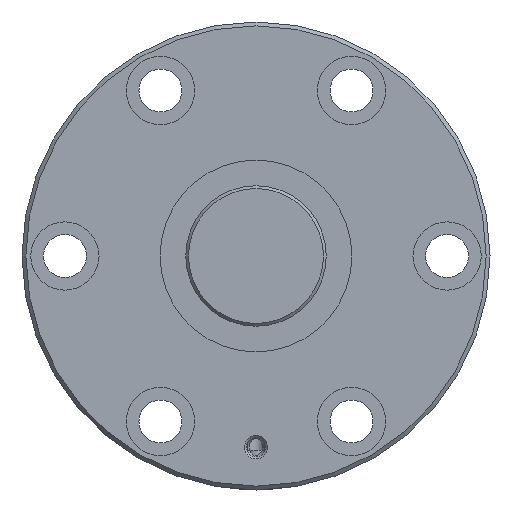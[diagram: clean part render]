
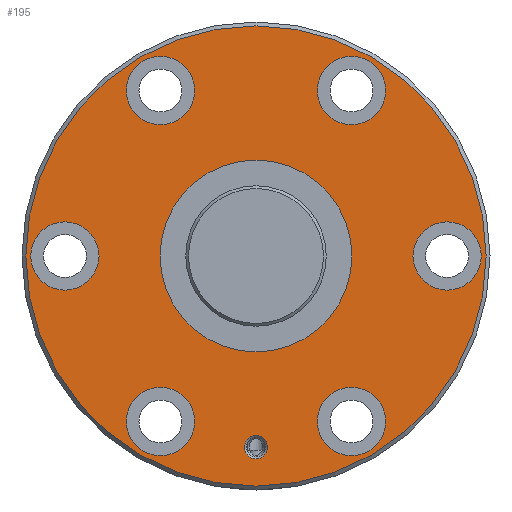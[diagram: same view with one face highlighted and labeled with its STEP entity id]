
A CAD part, left-side view. The second image highlights one B-rep face of the part: STEP entity #195.
In plain terms, the highlighted planar face has unit normal (-1, 0, 0).
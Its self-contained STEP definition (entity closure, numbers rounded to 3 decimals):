
#195 = ADVANCED_FACE( '', ( #329, #330, #331, #332, #333, #334, #335, #336, #337 ), #338, .T. );
#329 = FACE_BOUND( '', #567, .T. );
#330 = FACE_BOUND( '', #568, .T. );
#331 = FACE_BOUND( '', #569, .T. );
#332 = FACE_BOUND( '', #570, .T. );
#333 = FACE_BOUND( '', #571, .T. );
#334 = FACE_BOUND( '', #572, .T. );
#335 = FACE_BOUND( '', #573, .T. );
#336 = FACE_BOUND( '', #574, .T. );
#337 = FACE_OUTER_BOUND( '', #575, .T. );
#338 = PLANE( '', #576 );
#567 = EDGE_LOOP( '', ( #858 ) );
#568 = EDGE_LOOP( '', ( #859 ) );
#569 = EDGE_LOOP( '', ( #860 ) );
#570 = EDGE_LOOP( '', ( #861 ) );
#571 = EDGE_LOOP( '', ( #862 ) );
#572 = EDGE_LOOP( '', ( #863 ) );
#573 = EDGE_LOOP( '', ( #864 ) );
#574 = EDGE_LOOP( '', ( #865 ) );
#575 = EDGE_LOOP( '', ( #866 ) );
#576 = AXIS2_PLACEMENT_3D( '', #867, #868, #869 );
#858 = ORIENTED_EDGE( '', *, *, #1254, .T. );
#859 = ORIENTED_EDGE( '', *, *, #1251, .T. );
#860 = ORIENTED_EDGE( '', *, *, #1240, .T. );
#861 = ORIENTED_EDGE( '', *, *, #1255, .T. );
#862 = ORIENTED_EDGE( '', *, *, #1256, .T. );
#863 = ORIENTED_EDGE( '', *, *, #1257, .T. );
#864 = ORIENTED_EDGE( '', *, *, #1258, .T. );
#865 = ORIENTED_EDGE( '', *, *, #1247, .T. );
#866 = ORIENTED_EDGE( '', *, *, #1259, .F. );
#867 = CARTESIAN_POINT( '', ( 0., 59., 0. ) );
#868 = DIRECTION( '', ( -1., 0., 0. ) );
#869 = DIRECTION( '', ( 0., 0., 1. ) );
#1240 = EDGE_CURVE( '', #1383, #1383, #1384, .T. );
#1247 = EDGE_CURVE( '', #1397, #1397, #1398, .T. );
#1251 = EDGE_CURVE( '', #1405, #1405, #1406, .F. );
#1254 = EDGE_CURVE( '', #1411, #1411, #1412, .T. );
#1255 = EDGE_CURVE( '', #1413, #1413, #1414, .T. );
#1256 = EDGE_CURVE( '', #1415, #1415, #1416, .T. );
#1257 = EDGE_CURVE( '', #1417, #1417, #1418, .T. );
#1258 = EDGE_CURVE( '', #1419, #1419, #1420, .T. );
#1259 = EDGE_CURVE( '', #1421, #1421, #1422, .T. );
#1383 = VERTEX_POINT( '', #1710 );
#1384 = CIRCLE( '', #1711, 3. );
#1397 = VERTEX_POINT( '', #1724 );
#1398 = CIRCLE( '', #1725, 8.75 );
#1405 = VERTEX_POINT( '', #1732 );
#1406 = CIRCLE( '', #1733, 8.75 );
#1411 = VERTEX_POINT( '', #1738 );
#1412 = CIRCLE( '', #1739, 24.6 );
#1413 = VERTEX_POINT( '', #1740 );
#1414 = CIRCLE( '', #1741, 8.75 );
#1415 = VERTEX_POINT( '', #1742 );
#1416 = CIRCLE( '', #1743, 8.75 );
#1417 = VERTEX_POINT( '', #1744 );
#1418 = CIRCLE( '', #1745, 8.75 );
#1419 = VERTEX_POINT( '', #1746 );
#1420 = CIRCLE( '', #1747, 8.75 );
#1421 = VERTEX_POINT( '', #1748 );
#1422 = CIRCLE( '', #1749, 59. );
#1710 = CARTESIAN_POINT( '', ( 0., 0., -52. ) );
#1711 = AXIS2_PLACEMENT_3D( '', #2287, #2288, #2289 );
#1724 = CARTESIAN_POINT( '', ( 0., -49., -8.75 ) );
#1725 = AXIS2_PLACEMENT_3D( '', #2308, #2309, #2310 );
#1732 = CARTESIAN_POINT( '', ( 0., 49., 8.75 ) );
#1733 = AXIS2_PLACEMENT_3D( '', #2320, #2321, #2322 );
#1738 = CARTESIAN_POINT( '', ( 0., 0., -24.6 ) );
#1739 = AXIS2_PLACEMENT_3D( '', #2329, #2330, #2331 );
#1740 = CARTESIAN_POINT( '', ( 0., 24.5, 33.685 ) );
#1741 = AXIS2_PLACEMENT_3D( '', #2332, #2333, #2334 );
#1742 = CARTESIAN_POINT( '', ( 0., -24.5, -51.185 ) );
#1743 = AXIS2_PLACEMENT_3D( '', #2335, #2336, #2337 );
#1744 = CARTESIAN_POINT( '', ( 0., -24.5, 33.685 ) );
#1745 = AXIS2_PLACEMENT_3D( '', #2338, #2339, #2340 );
#1746 = CARTESIAN_POINT( '', ( 0., 24.5, -51.185 ) );
#1747 = AXIS2_PLACEMENT_3D( '', #2341, #2342, #2343 );
#1748 = CARTESIAN_POINT( '', ( 0., 0., -59. ) );
#1749 = AXIS2_PLACEMENT_3D( '', #2344, #2345, #2346 );
#2287 = CARTESIAN_POINT( '', ( 0., 0., -49. ) );
#2288 = DIRECTION( '', ( 1., 0., 0. ) );
#2289 = DIRECTION( '', ( 0., 0., -1. ) );
#2308 = CARTESIAN_POINT( '', ( 0., -49., 0. ) );
#2309 = DIRECTION( '', ( 1., 0., 0. ) );
#2310 = DIRECTION( '', ( 0., 0., -1. ) );
#2320 = CARTESIAN_POINT( '', ( 0., 49., 0. ) );
#2321 = DIRECTION( '', ( -1., 0., 0. ) );
#2322 = DIRECTION( '', ( 0., 0., 1. ) );
#2329 = CARTESIAN_POINT( '', ( 0., 0., 0. ) );
#2330 = DIRECTION( '', ( 1., 0., 0. ) );
#2331 = DIRECTION( '', ( 0., 0., -1. ) );
#2332 = CARTESIAN_POINT( '', ( 0., 24.5, 42.435 ) );
#2333 = DIRECTION( '', ( 1., 0., 0. ) );
#2334 = DIRECTION( '', ( 0., 0., -1. ) );
#2335 = CARTESIAN_POINT( '', ( 0., -24.5, -42.435 ) );
#2336 = DIRECTION( '', ( 1., 0., 0. ) );
#2337 = DIRECTION( '', ( 0., 0., -1. ) );
#2338 = CARTESIAN_POINT( '', ( 0., -24.5, 42.435 ) );
#2339 = DIRECTION( '', ( 1., 0., 0. ) );
#2340 = DIRECTION( '', ( 0., 0., -1. ) );
#2341 = CARTESIAN_POINT( '', ( 0., 24.5, -42.435 ) );
#2342 = DIRECTION( '', ( 1., 0., 0. ) );
#2343 = DIRECTION( '', ( 0., 0., -1. ) );
#2344 = CARTESIAN_POINT( '', ( 0., 0., 0. ) );
#2345 = DIRECTION( '', ( 1., 0., 0. ) );
#2346 = DIRECTION( '', ( 0., 0., -1. ) );
